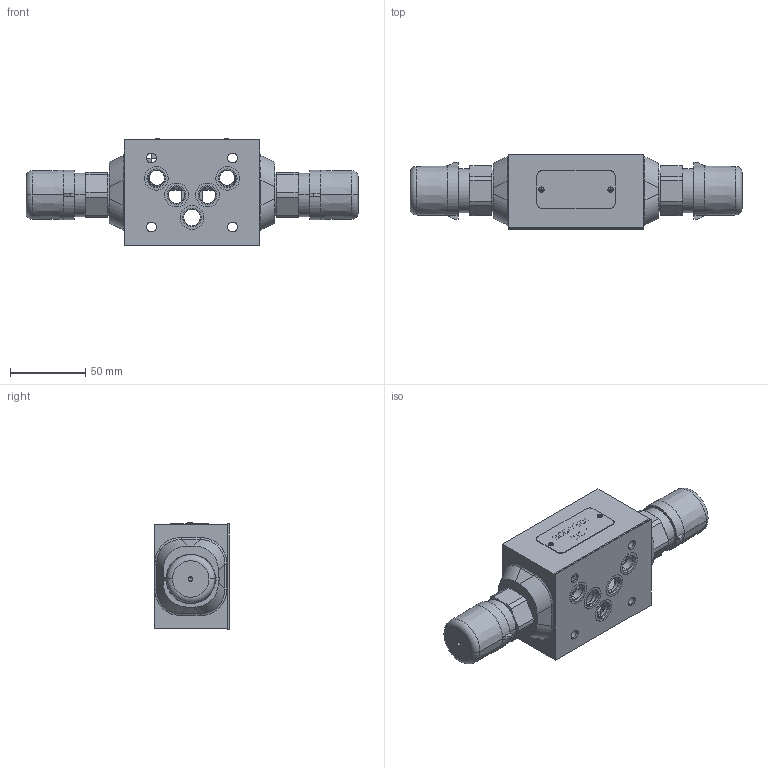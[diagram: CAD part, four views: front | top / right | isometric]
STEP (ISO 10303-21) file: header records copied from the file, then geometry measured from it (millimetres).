
FILE_DESCRIPTION((''),'2;1');
FILE_NAME('32341500_VSO3_10_MCT_ASM','2018-10-16T',('l.soukupova'),(''),'PRO/ENGINEER BY PARAMETRIC TECHNOLOGY CORPORATION, 2015440','PRO/ENGINEER BY PARAMETRIC TECHNOLOGY CORPORATION, 2015440','');
FILE_SCHEMA(('AUTOMOTIVE_DESIGN { 1 0 10303 214 1 1 1 1 }'));
Products named in the file (21): 31453400_AF0; 31453500; 31454100_AF0; 31454300_AF0; ISO_4035_M8_202508; ISO_4762_M8X25_88_ZN; 31453300_AF0; ORIA00690_169519; 20116500; 31453500_AF0; 31454100_AF1; 31454300_AF1; 31453300_AF1; 551_0200; RD_LABEL_25X52_159703; AF_1932_16485; BG2000220_242154; OR2502150_201455; 530_2091; DKAR00014_N70; 32341500_VSO3_10_MCT_ASM
Assembly tree (32 placements, depth 2):
  32341500_VSO3_10_MCT_ASM
    31453400_AF0
    31453500
    31454100_AF0
    31454300_AF0
    ISO_4035_M8_202508  x2
    ISO_4762_M8X25_88_ZN  x2
    31453300_AF0
    ORIA00690_169519  x2
    20116500  x2
    31453500_AF0
    31454100_AF1
    31454300_AF1
    31453300_AF1
    551_0200  x2
    RD_LABEL_25X52_159703
    AF_1932_16485  x2
    BG2000220_242154  x2
    OR2502150_201455  x2
    530_2091
    DKAR00014_N70  x5
Bounding box: 221 x 50.28 x 70.75 mm (x, y, z)
Volume: 269936.5 mm3; surface area: 112575 mm2
Topology: 32 solids, 44 shells, 1393 faces, 3790 edges, 2698 vertices
Faces by surface type: plane 684, cylinder 369, cone 152, torus 102, bspline 80, sphere 6
Entity records: 74229 total; most frequent: CARTESIAN_POINT 22588, DIRECTION 6570, ORIENTED_EDGE 6216, PRESENTATION_STYLE_ASSIGNMENT 4698, STYLED_ITEM 4676, CURVE_STYLE 3560, EDGE_CURVE 3131, AXIS2_PLACEMENT_3D 2204
